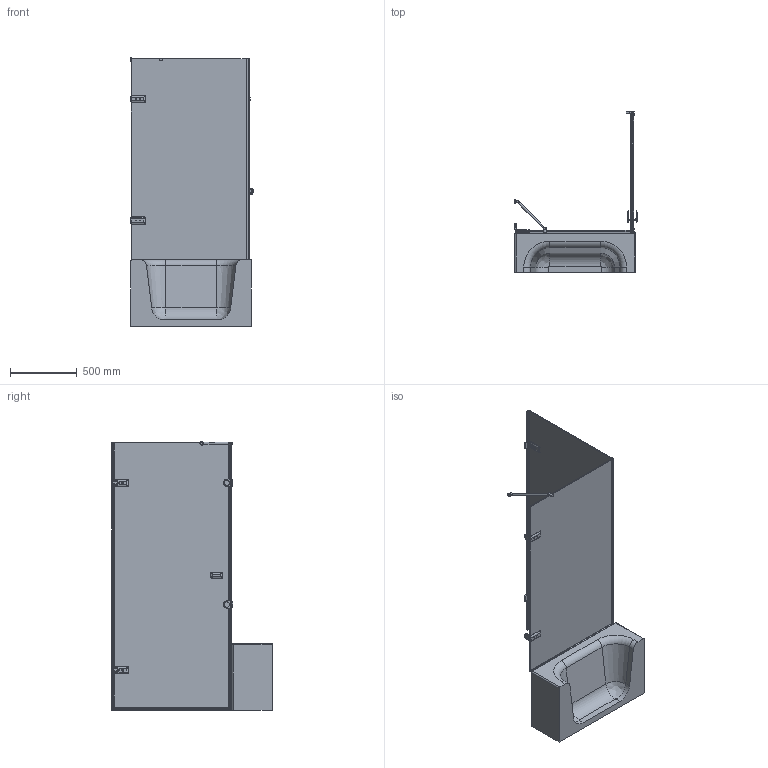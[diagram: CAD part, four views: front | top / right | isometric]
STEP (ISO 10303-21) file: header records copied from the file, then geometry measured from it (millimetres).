
FILE_DESCRIPTION(/* description */ (''),/* implementation_level */ '2;1');
FILE_NAME(/* name */ 'D:\5\TREND SQUARE GK-862VONE\TREND SQUARE GK-862VONE правая модель\TREND SQUARE GK-862VONE ПРАВАЯ-3D.stp',/* time_stamp */ '2020-02-20T16:11:09+03:00',/* author */ ('User'),/* organization */ (''),/* preprocessor_version */ 'ST-DEVELOPER v15.2',/* originating_system */ 'Autodesk Inventor 2014',/* authorisation */ '');
FILE_SCHEMA (('AUTOMOTIVE_DESIGN { 1 0 10303 214 3 1 1 }'));
Length unit declared in the file: millimetre
Products named in the file (1): TREND SQUARE GK-862VONE ПРАВАЯ-
3D
Bounding box: 912.5 x 1200 x 2009.49 mm (x, y, z)
Volume: 111966228.3 mm3; surface area: 8814168.6 mm2
Topology: 6 solids, 24 shells, 1372 faces, 3797 edges, 2425 vertices
Faces by surface type: plane 728, cylinder 464, bspline 72, torus 52, cone 46, sphere 10
Full cylindrical faces by diameter (mm): 4 x9, 4.134 x2, 4.917 x4, 5 x9, 5.2 x2, 6 x2, 7.2 x4, 7.4 x3, 8 x2, 11 x2, 12 x2, 13 x6, 15 x1, 16 x6, 20 x2, 26 x1, 28 x2, 28.5 x2, 40 x2
Entity records: 47966 total; most frequent: CARTESIAN_POINT 12198, ORIENTED_EDGE 7222, DIRECTION 6997, EDGE_CURVE 3602, AXIS2_PLACEMENT_3D 2376, VERTEX_POINT 2375, LINE 2245, VECTOR 2245
